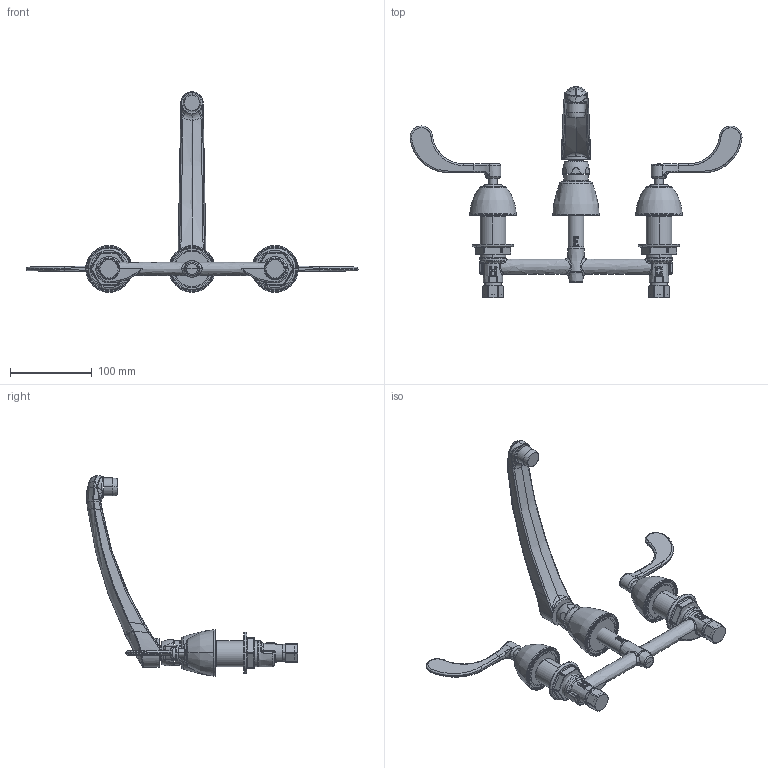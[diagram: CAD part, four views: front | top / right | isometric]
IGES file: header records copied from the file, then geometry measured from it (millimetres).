
Start section:  PTC IGES file: 201-AL8-317CP_REV061411.igs
Global section: file name: 201-AL8-317CP_REV061411.igs; native system: Pro/ENGINEER by Parametric Technology Corporation; preprocessor: 2010230; author: sdmitruk; organization: Unknown; date: 20110614.112205; units: inch
Bounding box: 406.4 x 258.29 x 245.5 mm (x, y, z)
Surface area: 134668 mm2 (no closed solid volume)
Topology: 0 solids, 0 shells, 808 faces, 5585 edges, 7428 vertices
Faces by surface type: bspline 424, revolution 384
